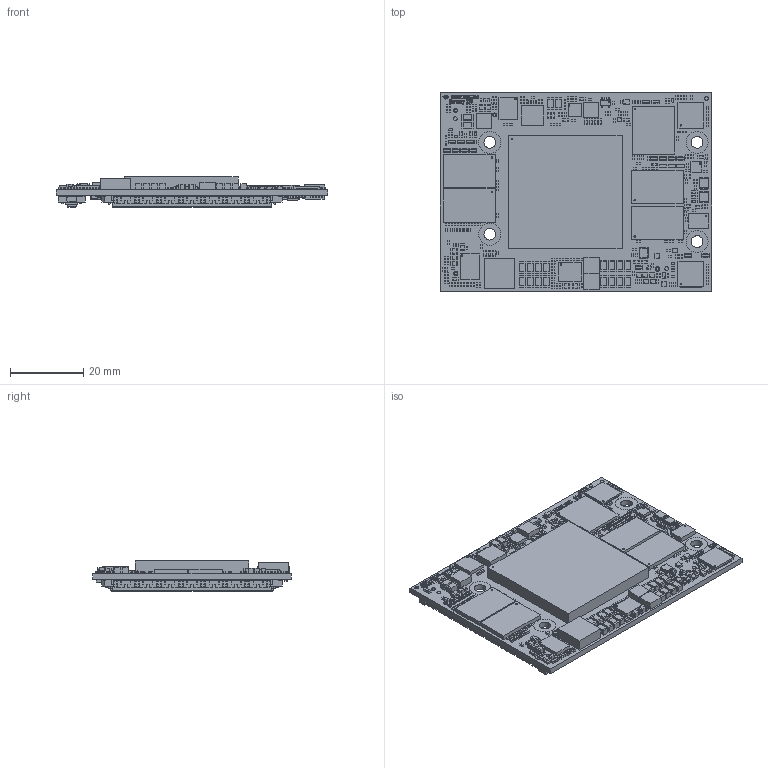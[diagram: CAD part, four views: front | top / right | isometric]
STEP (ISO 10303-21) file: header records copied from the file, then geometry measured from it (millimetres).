
FILE_DESCRIPTION(('Open CASCADE Model'),'2;1');
FILE_NAME('Open CASCADE Shape Model','2019-11-04T13:40:24',('Author'),( 'Open CASCADE'),'Open CASCADE STEP processor 6.8','Open CASCADE 6.8' ,'Unknown');
FILE_SCHEMA(('AUTOMOTIVE_DESIGN { 1 0 10303 214 1 1 1 1 }'));
Length unit declared in the file: millimetre
Products named in the file (806): --
Assembly tree (1400 placements, depth 5):
  --
    --
    --
      --
        --
    --
      --
        --
          --
        --
          --
        --
          --
        --
          --
        --
          --
        --
          --
        --
          --
      --
        --
      --
        --
      --
        --
    --
      --
        --
        --
        --
        --
        --
      --
        --
        --
        --
        --
        --
        --
        --
        --
        --
    --
      --  x4
      --  x4
    --
      --
        --
      --
        --
    --
      --
        --
      --
        --
    --
      --
        --
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Bounding box: 74 x 54 x 8.25 mm (x, y, z)
Volume: 13519.6 mm3; surface area: 23265.3 mm2
Topology: 1774 solids, 1774 shells, 21924 faces, 51633 edges, 33835 vertices
Faces by surface type: plane 20439, extrusion 857, cylinder 565, sphere 34, torus 16, cone 12, bspline 1
Full cylindrical faces by diameter (mm): 0.19 x2, 0.2 x15, 0.3 x4, 0.4 x18, 1 x6, 1.1 x3, 1.2 x3, 3.2 x8, 6 x4
Entity records: 255049 total; most frequent: CARTESIAN_POINT 42462, ORIENTED_EDGE 34220, DIRECTION 31330, EDGE_CURVE 17110, VECTOR 15584, LINE 14799, VERTEX_POINT 11297, AXIS2_PLACEMENT_3D 7873
